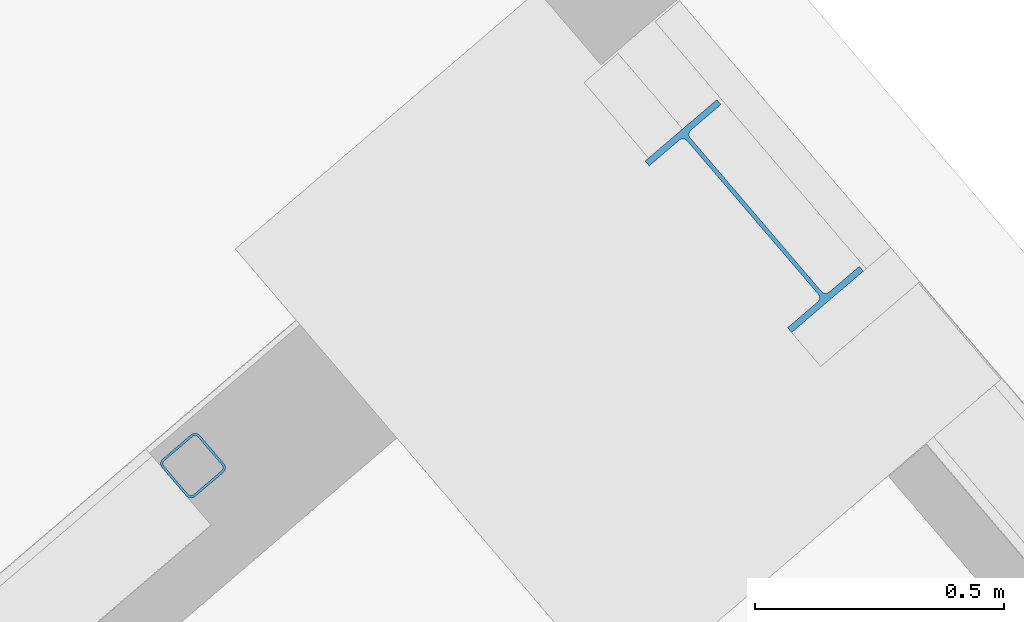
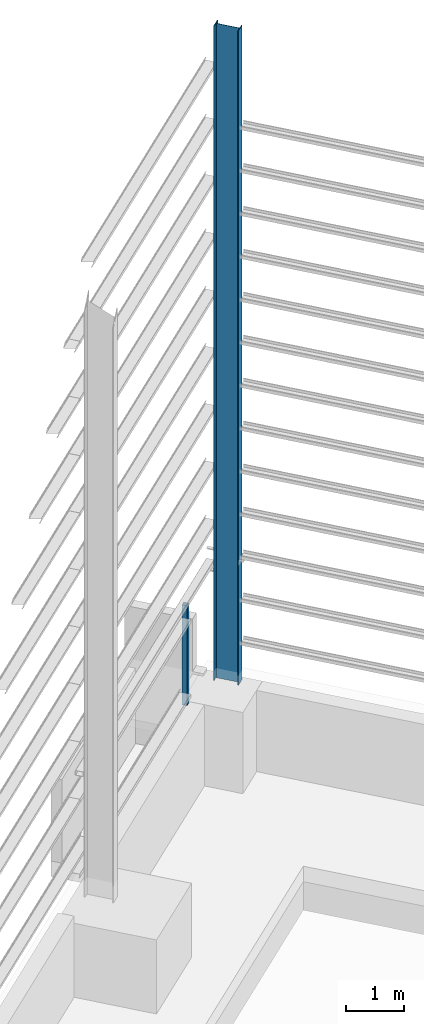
# One storey, part 11 of 41: 2 columns.
"""IFC2X3 building model written with IfcOpenShell, lengths in millimetres."""

from ifc_helpers import new_model, entity, si_unit, converted_unit, derived_unit, direction, frame, frame_2d, origin, origin_2d, place, context, subcontext, project, spatial, polyline, circle_curve, parameter, trimmed, segment, composite_curve, i_section, outline, extrude, source, transform, mapped, material, type_object, type_shapes, element, save


model = new_model("IFC2X3")

# Units and contexts
model_context = context("Model", 3, precision=0.01, world=origin(), true_north=direction((6.123031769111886e-17, 1.0)))
body_context = subcontext(model_context, "Body", "Model", "MODEL_VIEW")
ifc_project = project(units=[si_unit("LENGTHUNIT", "METRE", prefix="MILLI"), si_unit("AREAUNIT", "SQUARE_METRE"), si_unit("VOLUMEUNIT", "CUBIC_METRE"), converted_unit("PLANEANGLEUNIT", "DEGREE", entity("IfcRatioMeasure", 0.017453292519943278), si_unit("PLANEANGLEUNIT", "RADIAN"), dimensions=[0, 0, 0, 0, 0, 0, 0]), si_unit("MASSUNIT", "GRAM", prefix="KILO"), derived_unit("MASSDENSITYUNIT", [(si_unit("MASSUNIT", "GRAM", prefix="KILO"), 1), (si_unit("LENGTHUNIT", "METRE"), -3)]), derived_unit("MOMENTOFINERTIAUNIT", [(si_unit("LENGTHUNIT", "METRE"), 4)]), si_unit("TIMEUNIT", "SECOND"), si_unit("FREQUENCYUNIT", "HERTZ"), si_unit("THERMODYNAMICTEMPERATUREUNIT", "DEGREE_CELSIUS"), derived_unit("THERMALTRANSMITTANCEUNIT", [(si_unit("MASSUNIT", "GRAM", prefix="KILO"), 1), (si_unit("THERMODYNAMICTEMPERATUREUNIT", "KELVIN"), -1), (si_unit("TIMEUNIT", "SECOND"), -3)]), derived_unit("VOLUMETRICFLOWRATEUNIT", [(si_unit("LENGTHUNIT", "METRE"), 3), (si_unit("TIMEUNIT", "SECOND"), -1)]), derived_unit("MASSFLOWRATEUNIT", [(si_unit("MASSUNIT", "GRAM", prefix="KILO"), 1), (si_unit("TIMEUNIT", "SECOND"), -1)]), derived_unit("ROTATIONALFREQUENCYUNIT", [(si_unit("TIMEUNIT", "SECOND"), -1)]), si_unit("ELECTRICCURRENTUNIT", "AMPERE"), si_unit("ELECTRICVOLTAGEUNIT", "VOLT"), si_unit("POWERUNIT", "WATT"), si_unit("FORCEUNIT", "NEWTON", prefix="KILO"), si_unit("ILLUMINANCEUNIT", "LUX"), si_unit("LUMINOUSFLUXUNIT", "LUMEN"), si_unit("LUMINOUSINTENSITYUNIT", "CANDELA"), derived_unit("USERDEFINED", [(si_unit("MASSUNIT", "GRAM", prefix="KILO"), -1), (si_unit("LENGTHUNIT", "METRE"), -2), (si_unit("TIMEUNIT", "SECOND"), 3), (si_unit("LUMINOUSFLUXUNIT", "LUMEN"), 1)]), derived_unit("SOUNDPOWERUNIT", [(si_unit("MASSUNIT", "GRAM", prefix="KILO"), 1), (si_unit("LENGTHUNIT", "METRE"), 2), (si_unit("TIMEUNIT", "SECOND"), -3)]), derived_unit("LINEARVELOCITYUNIT", [(si_unit("LENGTHUNIT", "METRE"), 1), (si_unit("TIMEUNIT", "SECOND"), -1)]), si_unit("PRESSUREUNIT", "PASCAL"), derived_unit("USERDEFINED", [(si_unit("LENGTHUNIT", "METRE"), -2), (si_unit("MASSUNIT", "GRAM", prefix="KILO"), 1), (si_unit("TIMEUNIT", "SECOND"), -2)]), derived_unit("LINEARFORCEUNIT", [(si_unit("MASSUNIT", "GRAM", prefix="KILO"), 1), (si_unit("LENGTHUNIT", "METRE"), 1), (si_unit("TIMEUNIT", "SECOND"), -2), (si_unit("LENGTHUNIT", "METRE"), -1)]), derived_unit("PLANARFORCEUNIT", [(si_unit("MASSUNIT", "GRAM", prefix="KILO"), 1), (si_unit("LENGTHUNIT", "METRE"), 1), (si_unit("TIMEUNIT", "SECOND"), -2), (si_unit("LENGTHUNIT", "METRE"), -2)])], contexts=[model_context])

# Site, building, storey
site_placement = place(None, frame((962.4174930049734, -6014.433753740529, 0.0), z_axis=(0.0, 0.0, 1.0), x_axis=(0.7601792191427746, 0.649713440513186, 0.0)))
site = spatial("IfcSite", under=ifc_project, at=site_placement, Name="Default", CompositionType="ELEMENT")
building_placement = place(site_placement, origin())
building = spatial("IfcBuilding", under=site, at=building_placement, CompositionType="ELEMENT")
storey_placement = place(building_placement, origin())
storey = spatial("IfcBuildingStorey", under=building, at=storey_placement, Name="Datum", CompositionType="ELEMENT", Elevation=0.0)

# Columns
ifc_material = material(Name="Metal - Steel - 300 MPa")
column_type_1 = type_object("IfcColumnType", Name="ADSK_AU_SHS-Square Hollow Sections-Column (AS 1163_C350):100x100x5.0SHS", PredefinedType="COLUMN", material=ifc_material)
shared_shape = source(origin(), body_context, "Body", "SweptSolid", [
    extrude(outline(composite_curve([segment(polyline([(-37.50000000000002, -50.0), (37.50000000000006, -50.0)]), True, "CONTINUOUS"), segment(trimmed(circle_curve(frame_2d((37.49999999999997, -37.50000000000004), x_axis=(-1.0, 0.0)), 12.499999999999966), [parameter(90.00000000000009)], [parameter(180.00000000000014)], True, "PARAMETER"), True, "CONTINUOUS"), segment(polyline([(50.0, -37.500000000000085), (50.0, 37.50000000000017)]), True, "CONTINUOUS"), segment(trimmed(circle_curve(frame_2d((37.49999999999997, 37.50000000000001), x_axis=(-1.0, 0.0)), 12.499999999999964), [parameter(180.00000000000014)], [parameter(269.9999999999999)], True, "PARAMETER"), True, "CONTINUOUS"), segment(polyline([(37.49999999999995, 50.0), (-37.5, 50.0)]), True, "CONTINUOUS"), segment(trimmed(circle_curve(frame_2d((-37.5, 37.5), x_axis=(-1.0, 0.0)), 12.499999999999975), [parameter(269.99999999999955)], [parameter(359.9999999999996)], True, "PARAMETER"), True, "CONTINUOUS"), segment(polyline([(-50.0, 37.5), (-50.0, -37.50000000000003)]), True, "CONTINUOUS"), segment(trimmed(circle_curve(frame_2d((-37.5, -37.50000000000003), x_axis=(-1.0, 0.0)), 12.499999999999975), [parameter(359.99999999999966)], [parameter(89.99999999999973)], True, "PARAMETER"), True, "CONTINUOUS")], self_intersect=False), holes=[composite_curve([segment(trimmed(circle_curve(frame_2d((-37.5, -37.500000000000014), x_axis=(-1.0, 0.0)), 7.500000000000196), [parameter(359.9999999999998)], [parameter(89.99999999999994)], True, "PARAMETER"), False, "CONTINUOUS"), segment(polyline([(-45.0, -37.49999999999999), (-45.0, 37.499999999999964)]), True, "CONTINUOUS"), segment(trimmed(circle_curve(frame_2d((-37.5, 37.49999999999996), x_axis=(-1.0, 0.0)), 7.499999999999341), [parameter(270.00000000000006)], [parameter(359.9999999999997)], True, "PARAMETER"), False, "CONTINUOUS"), segment(polyline([(-37.50000000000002, 45.0), (37.500000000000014, 45.0)]), True, "CONTINUOUS"), segment(trimmed(circle_curve(frame_2d((37.49999999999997, 37.49999999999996), x_axis=(-1.0, 0.0)), 7.499999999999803), [parameter(180.0000000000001)], [parameter(270.00000000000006)], True, "PARAMETER"), False, "CONTINUOUS"), segment(polyline([(45.0, 37.5), (45.0, -37.50000000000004)]), True, "CONTINUOUS"), segment(trimmed(circle_curve(frame_2d((37.49999999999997, -37.500000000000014), x_axis=(-1.0, 0.0)), 7.500000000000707), [parameter(90.00000000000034)], [parameter(180.0000000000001)], True, "PARAMETER"), False, "CONTINUOUS"), segment(polyline([(37.50000000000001, -45.0), (-37.50000000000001, -45.0)]), True, "CONTINUOUS")], self_intersect=False)]), frame((0.0, 0.0, 0.0), z_axis=(0.0, 0.0, 1.0), x_axis=(-1.0, 0.0, 0.0)), (0.0, 0.0, 1.0), 2090.0),
])
type_shapes(column_type_1, [shared_shape])
column_1_placement = place(building_placement, frame((184599.66020470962, 3784.0719178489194, 0.0)))
element("IfcColumn", 1, at=column_1_placement, inside=storey, type_object=column_type_1, material=ifc_material, Name="ADSK_AU_SHS-Square Hollow Sections-Column (AS 1163_C350):100x100x5.0SHS", ObjectType="ADSK_AU_SHS-Square Hollow Sections-Column (AS 1163_C350):100x100x5.0SHS", context=body_context, shape_type="MappedRepresentation", body=[
    mapped(shared_shape, transform((0.0, 0.0, 0.0), scale=1.0)),
])
column_type_2 = type_object("IfcColumnType", Name="ADSK_AU_UB-Universal Beams-Column (AS 3679_1):460UB67.1", PredefinedType="COLUMN", material=ifc_material)
column_2_placement = place(building_placement, frame((185784.26020471, 3432.171917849, 13510.0)))
element("IfcColumn", 2, at=column_2_placement, inside=storey, type_object=column_type_2, material=ifc_material, Name="ADSK_AU_UB-Universal Beams-Column (AS 3679_1):460UB67.1", ObjectType="460UB67.1", context=model_context, shape_type="SweptSolid", body=[
    extrude(i_section(OverallWidth=190.0, OverallDepth=453.8, WebThickness=8.5, FlangeThickness=12.7, FilletRadius=11.4, at=origin_2d()), origin(), (0.0, 0.0, -1.0), 13710.0),
])

save(model, "model.ifc")
